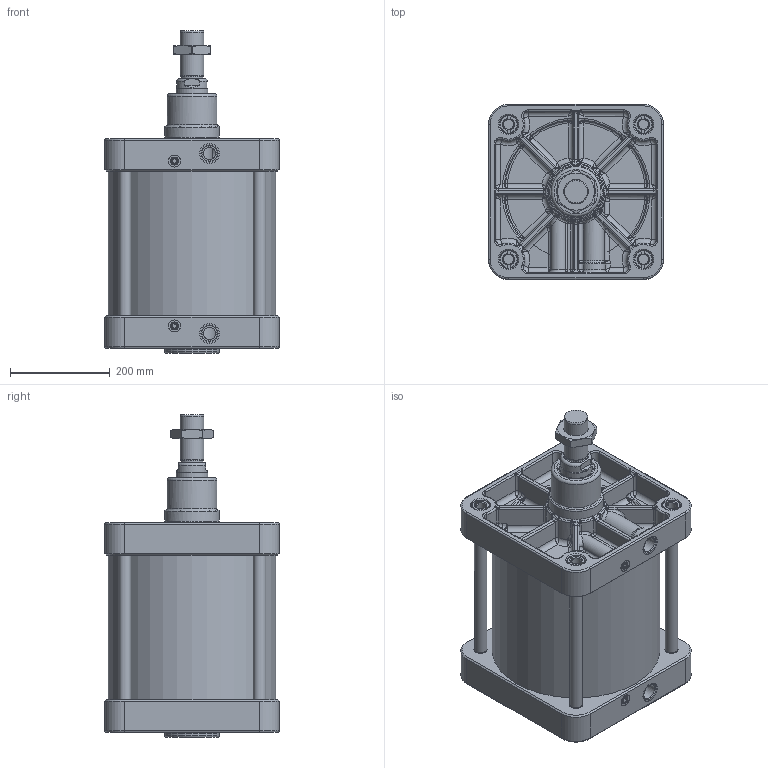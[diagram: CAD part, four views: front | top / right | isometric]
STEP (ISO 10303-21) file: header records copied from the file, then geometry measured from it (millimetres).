
FILE_DESCRIPTION(/* description */ (''),/* implementation_level */ '2;1');
FILE_NAME(/* name */ 'T:\Archivio Inventor\- 00 NUOVI STP PER SITO CON STELO CHE SI MUOVE\SERIE H - U\SERIE UDM\UDM320.---.GS.M\UDM320.200.GS.M.stp',/* time_stamp */ '2020-04-29T16:29:32+02:00',/* author */ ('carlo.corazza'),/* organization */ (''),/* preprocessor_version */ 'ST-DEVELOPER v16.5',/* originating_system */ 'Autodesk Inventor 2017',/* authorisation */ '');
FILE_SCHEMA (('AUTOMOTIVE_DESIGN { 1 0 10303 214 3 1 1 }'));
Length unit declared in the file: millimetre
Products named in the file (7): UDM320.200.GS.M; TP; STELO-200; TA; CORPO-200; TIRANTE-200; 29.2048.000.0
Assembly tree (9 placements, depth 2):
  UDM320.200.GS.M
    TP
    STELO-200
    TA
    TIRANTE-200  x4
    CORPO-200
    29.2048.000.0
Bounding box: 350 x 350 x 646 mm (x, y, z)
Volume: 13702831 mm3; surface area: 1982317.8 mm2
Topology: 9 solids, 16 shells, 1710 faces, 3937 edges, 2221 vertices
Faces by surface type: cylinder 439, bspline 432, plane 380, torus 252, cone 115, sphere 92
Full cylindrical faces by diameter (mm): 8 x2, 9 x1, 10 x1, 11 x2, 11.2 x2, 12 x2, 12.376 x1, 13.4 x4, 14 x2, 15.8 x4, 16 x6, 20.752 x8, 24 x10, 24.5 x8, 25 x6, 30.291 x2, 36 x9, 37 x8, 40 x2, 44.8 x1, 45.835 x1, 48 x1, 62 x1, 63 x1, 64 x1, 64.293 x1, 65.8 x1, 73 x1, 75 x3, 100 x1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
Entity records: 64917 total; most frequent: CARTESIAN_POINT 27888, DIRECTION 7314, ORIENTED_EDGE 7088, EDGE_CURVE 3544, AXIS2_PLACEMENT_3D 3113, VERTEX_POINT 2134, EDGE_LOOP 1966, FACE_OUTER_BOUND 1683
